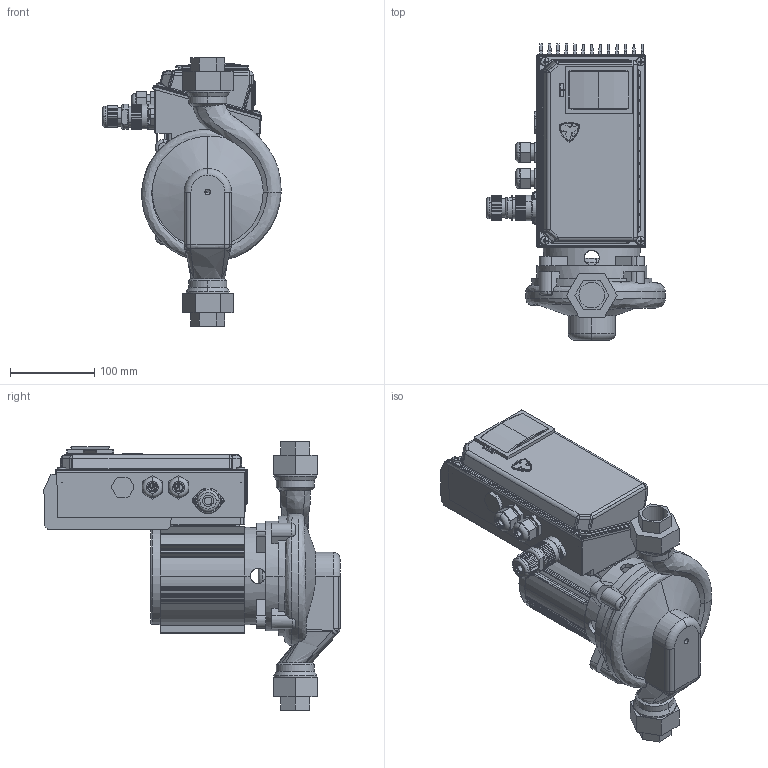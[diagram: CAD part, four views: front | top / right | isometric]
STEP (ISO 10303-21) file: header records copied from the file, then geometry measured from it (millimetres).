
FILE_DESCRIPTION(('STEP AP214'),'1');
FILE_NAME('export.stp','2018-05-31T10:50:55',(' '),(' '),'Spatial InterOp 3D',' ',' ');
FILE_SCHEMA(('AUTOMOTIVE_DESIGN { 1 0 10303 214 1 1 1 1 }'));
Length unit declared in the file: millimetre
Products named in the file (32): V_MOP732742_forSC; RU_OP_732_742; TKILPI_OP_7; W_AE264800_SC; V_EKN12OP7; V_TLAEAP202526; V_PPAE26; P100471; P100466; P100453; P100467; DIN_7985-M5x12; P100515; P100512; P100513; P100514; P100509; ontto_sylinteri; DIN_7985-M3x12; P100606; P100607; P100565; P100567; P100566; P100569; P100581; P101504; P101332; PART3; PART4
Assembly tree (36 placements, depth 4):
  W_AE264800_SC
    V_MOP732742_forSC
      RU_OP_732_742
      TKILPI_OP_7
    V_EKN12OP7
    V_TLAEAP202526
    V_PPAE26
    P100471
      P100466
      P100453
      P100467
      DIN_7985-M5x12  x4
      P100515
        P100512
        P100513
        P100514
        P100509
        ontto_sylinteri
      DIN_7985-M3x12  x2
      P100606
        P100607
        P100565
        ontto_sylinteri
      P100567
        P100566
        P100565
        ontto_sylinteri
      P100569
      P100581
      P101504
      P101332
        PART3
        PART4
Bounding box: 211.34 x 350.83 x 318 mm (x, y, z)
Volume: 2006145.9 mm3; surface area: 645774.2 mm2
Topology: 30 solids, 30 shells, 2378 faces, 6267 edges, 3999 vertices
Faces by surface type: plane 1111, cylinder 878, torus 134, cone 102, sphere 95, bspline 58
Entity records: 103080 total; most frequent: CARTESIAN_POINT 19772, DIRECTION 12638, ORIENTED_EDGE 11878, EDGE_CURVE 5939, AXIS2_PLACEMENT_3D 4710, VERTEX_POINT 3825, STYLED_ITEM 3640, PRESENTATION_STYLE_ASSIGNMENT 3640
